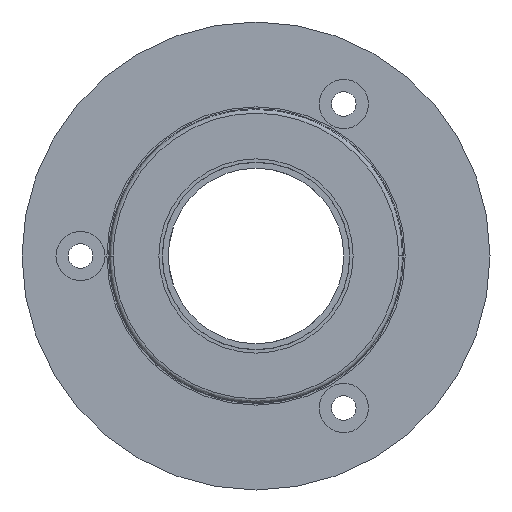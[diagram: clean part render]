
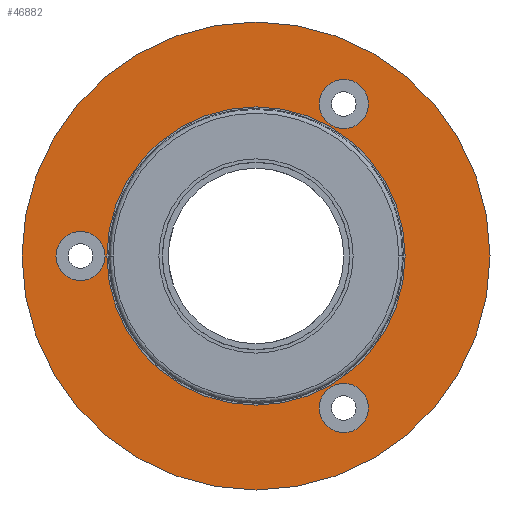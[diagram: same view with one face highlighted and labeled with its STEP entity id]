
A CAD part, left-side view. The second image highlights one B-rep face of the part: STEP entity #46882.
In plain terms, the highlighted planar face has unit normal (-1, 0, 0).
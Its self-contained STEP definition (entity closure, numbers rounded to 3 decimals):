
#183 = EDGE_CURVE ( 'NONE', #57719, #11145, #39220, .T. ) ;
#1900 = EDGE_CURVE ( 'NONE', #11145, #57719, #13339, .T. ) ;
#2106 = EDGE_CURVE ( 'NONE', #72803, #60070, #52100, .T. ) ;
#2552 = VERTEX_POINT ( 'NONE', #50649 ) ;
#3104 = CIRCLE ( 'NONE', #58976, 2.1 ) ;
#3551 = CARTESIAN_POINT ( 'NONE',  ( 2.8, 0., 0. ) ) ;
#4434 = AXIS2_PLACEMENT_3D ( 'NONE', #32456, #74967, #62727 ) ;
#5464 = EDGE_CURVE ( 'NONE', #26125, #16935, #36446, .T. ) ;
#7194 = AXIS2_PLACEMENT_3D ( 'NONE', #63636, #70015, #76151 ) ;
#7914 = VERTEX_POINT ( 'NONE', #51665 ) ;
#7931 = CARTESIAN_POINT ( 'NONE',  ( 2.8, -9.6, -12.99 ) ) ;
#9523 = DIRECTION ( 'NONE',  ( 1., 0., 0. ) ) ;
#9663 = DIRECTION ( 'NONE',  ( 0., 1., 0. ) ) ;
#10726 = DIRECTION ( 'NONE',  ( 1., 0., 0. ) ) ;
#11145 = VERTEX_POINT ( 'NONE', #30110 ) ;
#11456 = AXIS2_PLACEMENT_3D ( 'NONE', #36088, #53611, #77827 ) ;
#13263 = ORIENTED_EDGE ( 'NONE', *, *, #59370, .T. ) ;
#13339 = CIRCLE ( 'NONE', #76515, 2.1 ) ;
#14921 = DIRECTION ( 'NONE',  ( 1., 0., 0. ) ) ;
#15937 = AXIS2_PLACEMENT_3D ( 'NONE', #20893, #9523, #63039 ) ;
#16935 = VERTEX_POINT ( 'NONE', #77510 ) ;
#17331 = EDGE_CURVE ( 'NONE', #16935, #26125, #40012, .T. ) ;
#17783 = CIRCLE ( 'NONE', #78591, 20. ) ;
#18791 = EDGE_LOOP ( 'NONE', ( #47610, #13263 ) ) ;
#19816 = FACE_BOUND ( 'NONE', #61791, .T. ) ;
#20217 = EDGE_CURVE ( 'NONE', #2552, #50992, #17783, .T. ) ;
#20238 = EDGE_CURVE ( 'NONE', #71744, #7914, #64242, .T. ) ;
#20893 = CARTESIAN_POINT ( 'NONE',  ( 2.8, 15., 0. ) ) ;
#25000 = AXIS2_PLACEMENT_3D ( 'NONE', #63150, #14921, #45386 ) ;
#26125 = VERTEX_POINT ( 'NONE', #29322 ) ;
#27406 = FACE_BOUND ( 'NONE', #66284, .T. ) ;
#29322 = CARTESIAN_POINT ( 'NONE',  ( 2.8, 17.1, 0. ) ) ;
#29986 = ORIENTED_EDGE ( 'NONE', *, *, #183, .T. ) ;
#30110 = CARTESIAN_POINT ( 'NONE',  ( 2.8, -9.6, 12.99 ) ) ;
#32456 = CARTESIAN_POINT ( 'NONE',  ( 2.8, 15., 0. ) ) ;
#32902 = CARTESIAN_POINT ( 'NONE',  ( 2.8, 0., 0. ) ) ;
#34524 = PLANE ( 'NONE',  #61912 ) ;
#35451 = CIRCLE ( 'NONE', #25000, 10. ) ;
#35773 = ORIENTED_EDGE ( 'NONE', *, *, #5464, .T. ) ;
#35935 = FACE_OUTER_BOUND ( 'NONE', #44902, .T. ) ;
#36088 = CARTESIAN_POINT ( 'NONE',  ( 2.8, -7.5, -12.99 ) ) ;
#36446 = CIRCLE ( 'NONE', #4434, 2.1 ) ;
#36727 = EDGE_CURVE ( 'NONE', #60070, #72803, #3104, .T. ) ;
#38168 = CARTESIAN_POINT ( 'NONE',  ( 2.8, -20., 0. ) ) ;
#38750 = FACE_BOUND ( 'NONE', #54809, .T. ) ;
#39220 = CIRCLE ( 'NONE', #7194, 2.1 ) ;
#39232 = ORIENTED_EDGE ( 'NONE', *, *, #17331, .T. ) ;
#39334 = CARTESIAN_POINT ( 'NONE',  ( 2.8, -5.4, 12.99 ) ) ;
#40012 = CIRCLE ( 'NONE', #15937, 2.1 ) ;
#44902 = EDGE_LOOP ( 'NONE', ( #63326, #75095 ) ) ;
#45386 = DIRECTION ( 'NONE',  ( 0., 1., 0. ) ) ;
#45587 = CARTESIAN_POINT ( 'NONE',  ( 2.8, -5.4, -12.99 ) ) ;
#45949 = DIRECTION ( 'NONE',  ( -1., 0., 0. ) ) ;
#45962 = CARTESIAN_POINT ( 'NONE',  ( 2.8, -7.5, 12.99 ) ) ;
#46238 = DIRECTION ( 'NONE',  ( -1., 0., 0. ) ) ;
#46525 = CIRCLE ( 'NONE', #65443, 20. ) ;
#46882 = ADVANCED_FACE ( 'NONE', ( #35935, #78707, #19816, #38750, #27406 ), #34524, .T. ) ;
#47610 = ORIENTED_EDGE ( 'NONE', *, *, #20238, .T. ) ;
#48421 = CARTESIAN_POINT ( 'NONE',  ( 2.8, -7.5, -12.99 ) ) ;
#50649 = CARTESIAN_POINT ( 'NONE',  ( 2.8, 20., 0. ) ) ;
#50992 = VERTEX_POINT ( 'NONE', #38168 ) ;
#51665 = CARTESIAN_POINT ( 'NONE',  ( 2.8, -10., 0. ) ) ;
#52100 = CIRCLE ( 'NONE', #11456, 2.1 ) ;
#53611 = DIRECTION ( 'NONE',  ( 1., 0., 0. ) ) ;
#53747 = DIRECTION ( 'NONE',  ( 1., 0., 0. ) ) ;
#54809 = EDGE_LOOP ( 'NONE', ( #66734, #65267 ) ) ;
#57015 = CARTESIAN_POINT ( 'NONE',  ( 2.8, 10., 0. ) ) ;
#57637 = DIRECTION ( 'NONE',  ( 0., -1., 0. ) ) ;
#57719 = VERTEX_POINT ( 'NONE', #39334 ) ;
#58909 = DIRECTION ( 'NONE',  ( 0., 1., 0. ) ) ;
#58976 = AXIS2_PLACEMENT_3D ( 'NONE', #48421, #53747, #60115 ) ;
#59370 = EDGE_CURVE ( 'NONE', #7914, #71744, #35451, .T. ) ;
#60070 = VERTEX_POINT ( 'NONE', #7931 ) ;
#60115 = DIRECTION ( 'NONE',  ( 0., -1., 0. ) ) ;
#61791 = EDGE_LOOP ( 'NONE', ( #64567, #29986 ) ) ;
#61912 = AXIS2_PLACEMENT_3D ( 'NONE', #76262, #46238, #57637 ) ;
#62727 = DIRECTION ( 'NONE',  ( 0., -1., 0. ) ) ;
#63039 = DIRECTION ( 'NONE',  ( 0., -1., 0. ) ) ;
#63150 = CARTESIAN_POINT ( 'NONE',  ( 2.8, 0., 0. ) ) ;
#63326 = ORIENTED_EDGE ( 'NONE', *, *, #20217, .T. ) ;
#63636 = CARTESIAN_POINT ( 'NONE',  ( 2.8, -7.5, 12.99 ) ) ;
#64242 = CIRCLE ( 'NONE', #74018, 10. ) ;
#64527 = DIRECTION ( 'NONE',  ( 1., 0., 0. ) ) ;
#64567 = ORIENTED_EDGE ( 'NONE', *, *, #1900, .T. ) ;
#64794 = CARTESIAN_POINT ( 'NONE',  ( 2.8, 0., 0. ) ) ;
#65267 = ORIENTED_EDGE ( 'NONE', *, *, #2106, .T. ) ;
#65443 = AXIS2_PLACEMENT_3D ( 'NONE', #32902, #69801, #75940 ) ;
#65757 = EDGE_CURVE ( 'NONE', #50992, #2552, #46525, .T. ) ;
#66284 = EDGE_LOOP ( 'NONE', ( #39232, #35773 ) ) ;
#66734 = ORIENTED_EDGE ( 'NONE', *, *, #36727, .T. ) ;
#69801 = DIRECTION ( 'NONE',  ( -1., 0., 0. ) ) ;
#70015 = DIRECTION ( 'NONE',  ( 1., 0., 0. ) ) ;
#71744 = VERTEX_POINT ( 'NONE', #57015 ) ;
#72803 = VERTEX_POINT ( 'NONE', #45587 ) ;
#74018 = AXIS2_PLACEMENT_3D ( 'NONE', #64794, #64527, #58909 ) ;
#74967 = DIRECTION ( 'NONE',  ( 1., 0., 0. ) ) ;
#75095 = ORIENTED_EDGE ( 'NONE', *, *, #65757, .T. ) ;
#75940 = DIRECTION ( 'NONE',  ( 0., 1., 0. ) ) ;
#76151 = DIRECTION ( 'NONE',  ( 0., -1., 0. ) ) ;
#76262 = CARTESIAN_POINT ( 'NONE',  ( 2.8, 10., 0. ) ) ;
#76515 = AXIS2_PLACEMENT_3D ( 'NONE', #45962, #10726, #76781 ) ;
#76781 = DIRECTION ( 'NONE',  ( 0., -1., 0. ) ) ;
#77510 = CARTESIAN_POINT ( 'NONE',  ( 2.8, 12.9, 0. ) ) ;
#77827 = DIRECTION ( 'NONE',  ( 0., -1., 0. ) ) ;
#78591 = AXIS2_PLACEMENT_3D ( 'NONE', #3551, #45949, #9663 ) ;
#78707 = FACE_BOUND ( 'NONE', #18791, .T. ) ;
